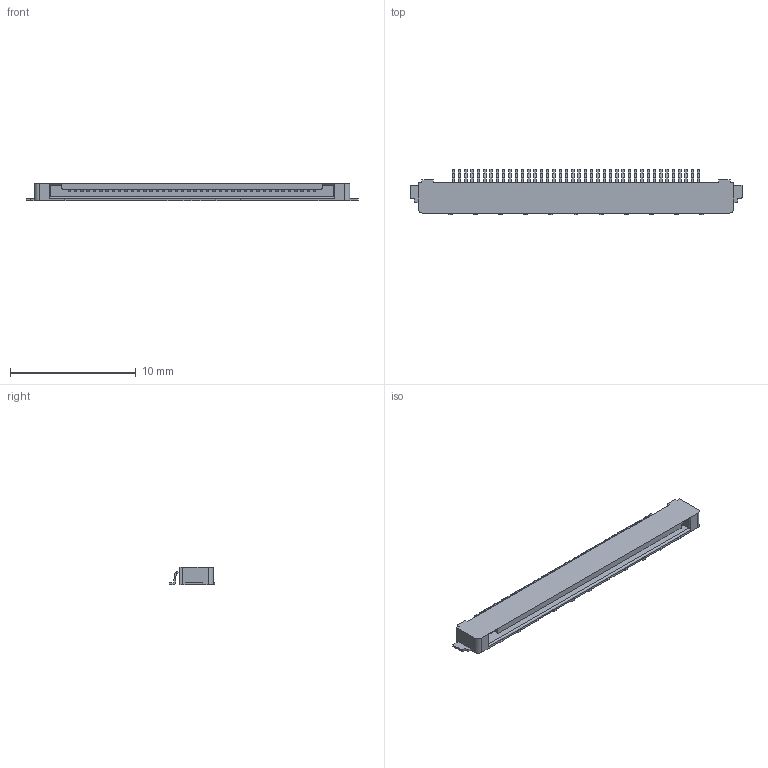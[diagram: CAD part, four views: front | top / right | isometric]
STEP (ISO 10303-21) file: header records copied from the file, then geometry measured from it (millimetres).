
FILE_DESCRIPTION(('Creo Elements/Direct Modeling STEP Export'),'2;1');
FILE_NAME('SSL00-40L3_ST.stp','2017-08-04T14:15:48',(''),(''),'Creo Elements/Direct Modeling STEP processor for AP214 (Solid Model)','Creo Elements/Direct Modeling 19.0F 14-Feb-2017 (C) Parametric Technology GmbH','');
FILE_SCHEMA(('AUTOMOTIVE_DESIGN { 1 0 10303 214 1 1 1 1 }'));
Length unit declared in the file: millimetre
Products named in the file (2): SSL00-40L3
Assembly tree (1 placements, depth 2):
  SSL00-40L3
    SSL00-40L3
Bounding box: 26.4 x 3.58 x 1.4 mm (x, y, z)
Volume: 65.9 mm3; surface area: 348.4 mm2
Topology: 1 solids, 1 shells, 957 faces, 2860 edges, 1906 vertices
Faces by surface type: plane 604, cylinder 353
Entity records: 32417 total; most frequent: CARTESIAN_POINT 5739, ORIENTED_EDGE 5720, DIRECTION 5480, EDGE_CURVE 2860, VECTOR 2154, LINE 2154, VERTEX_POINT 1906, AXIS2_PLACEMENT_3D 1663
